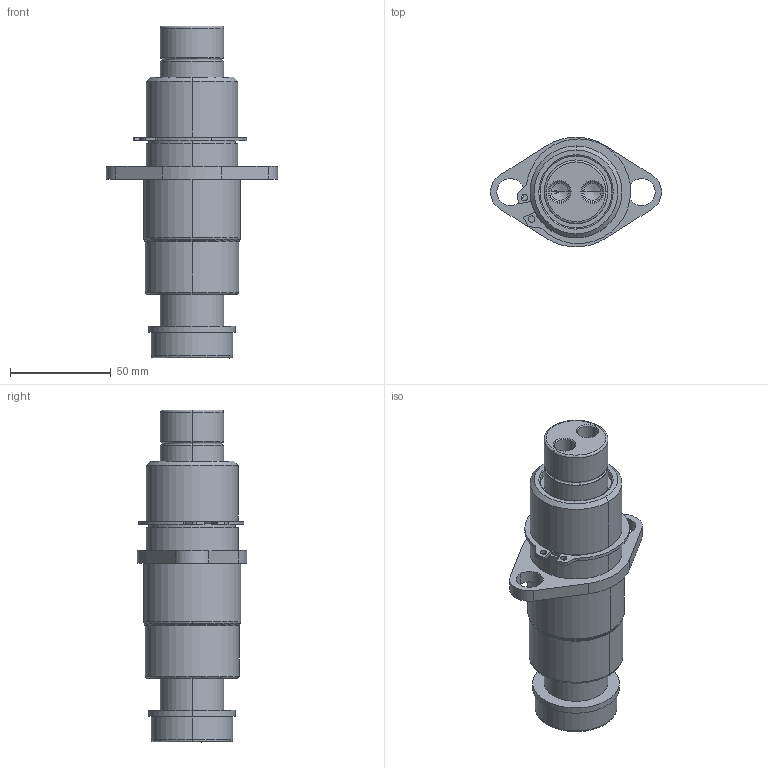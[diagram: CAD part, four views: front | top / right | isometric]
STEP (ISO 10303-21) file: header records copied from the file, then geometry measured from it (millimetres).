
FILE_DESCRIPTION (( 'STEP AP214' ), '1' );
FILE_NAME ('GK122-N4-2-BP-M-XXX.STEP', '2020-09-21T18:52:11', ( '' ), ( '' ), 'SwSTEP 2.0', 'SolidWorks 2017', '' );
FILE_SCHEMA (( 'AUTOMOTIVE_DESIGN' ));
Length unit declared in the file: inch
Products named in the file (7): GK1.25-N4-2-BP-Base; GK122-N4-2-BP-M-XXX; GK122-DampeningWasher; GK122-M-XXX-GuidePin; RetainingRing
Assembly tree (6 placements, depth 3):
  GK122-N4-2-BP-M-XXX
    GK1.25-N4-2-BP-Base
      GK1.25-N4-2-BP-Base
      RetainingRing
    GK122-M-XXX-GuidePin
      GK122-M-XXX-GuidePin
      GK122-DampeningWasher
Bounding box: 85.09 x 54.52 x 165.1 mm (x, y, z)
Volume: 238466.6 mm3; surface area: 57240.8 mm2
Topology: 4 solids, 4 shells, 141 faces, 319 edges, 194 vertices
Faces by surface type: cylinder 65, bspline 30, plane 24, cone 22
Entity records: 5600 total; most frequent: CARTESIAN_POINT 2129, DIRECTION 691, ORIENTED_EDGE 630, EDGE_CURVE 315, AXIS2_PLACEMENT_3D 284, VERTEX_POINT 194, EDGE_LOOP 165, CIRCLE 162
